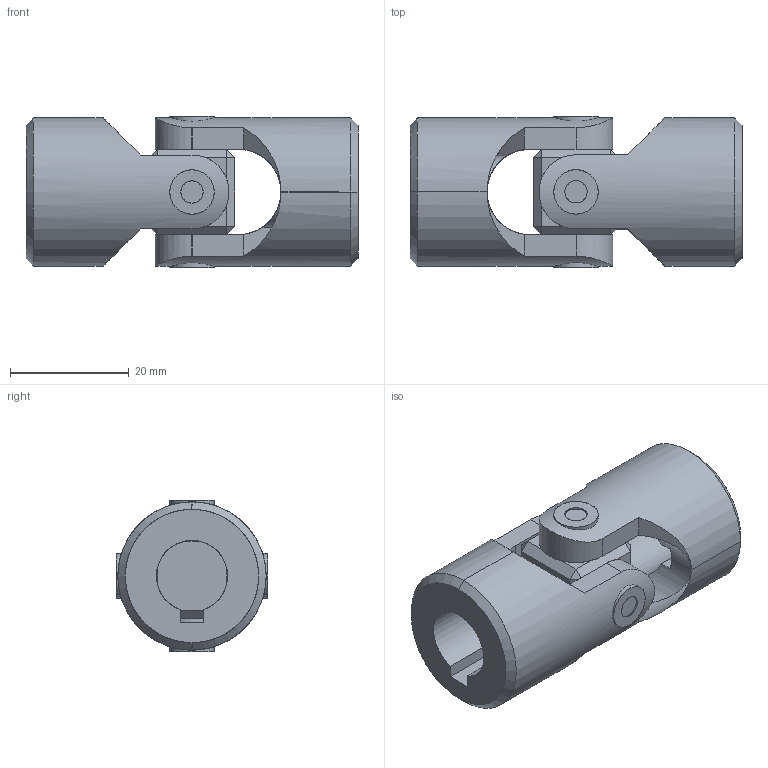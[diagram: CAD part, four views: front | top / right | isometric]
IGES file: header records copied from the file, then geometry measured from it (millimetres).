
Start section: SolidWorks IGES file using analytic representation for surfaces
Global section: file name: C:\Users\IanO\Desktop\R3690_v2\R3690_v2_20231020_IGES\R3690.012-KW.igs; native system: SolidWorks 2019; preprocessor: SolidWorks 2019; author: IanO; date: 231020.152435; units: millimetre
Bounding box: 56 x 25.5 x 25.5 mm (x, y, z)
Surface area: 10042 mm2 (no closed solid volume)
Topology: 0 solids, 0 shells, 110 faces, 2180 edges, 2180 vertices
Faces by surface type: bspline 62, revolution 48
